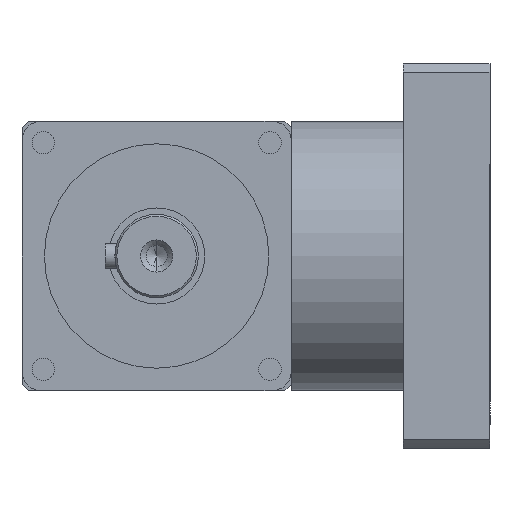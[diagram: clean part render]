
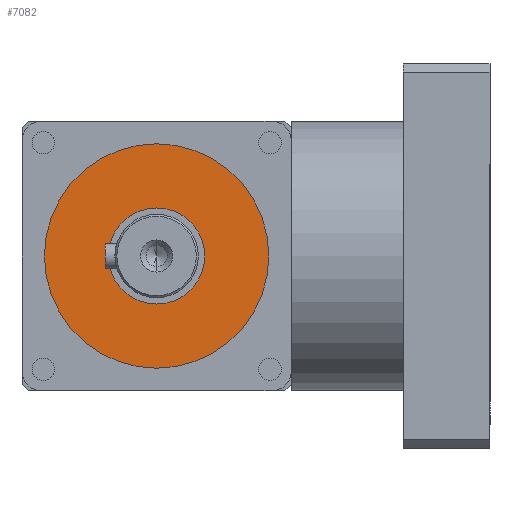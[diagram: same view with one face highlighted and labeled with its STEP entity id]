
A CAD part, front view. The second image highlights one B-rep face of the part: STEP entity #7082.
In plain terms, the highlighted planar face has unit normal (0, -1, 0).
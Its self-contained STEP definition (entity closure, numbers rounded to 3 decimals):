
#375 = VERTEX_POINT ( 'NONE', #463 ) ;
#376 = VERTEX_POINT ( 'NONE', #464 ) ;
#463 = CARTESIAN_POINT ( 'NONE',  ( 0., -66., 17.5 ) ) ;
#464 = CARTESIAN_POINT ( 'NONE',  ( 0., -66., -17.5 ) ) ;
#552 = CARTESIAN_POINT ( 'NONE',  ( 0., -66., 7.5 ) ) ;
#574 = CARTESIAN_POINT ( 'NONE',  ( 0., -66., -7.5 ) ) ;
#993 = ORIENTED_EDGE ( 'NONE', *, *, #3094, .T. ) ;
#995 = ORIENTED_EDGE ( 'NONE', *, *, #3079, .T. ) ;
#996 = ORIENTED_EDGE ( 'NONE', *, *, #3056, .T. ) ;
#998 = ORIENTED_EDGE ( 'NONE', *, *, #3095, .T. ) ;
#1335 = CARTESIAN_POINT ( 'NONE',  ( 0., -66., 0. ) ) ;
#1337 = DIRECTION ( 'NONE',  ( 0., 1., 0. ) ) ;
#1339 = DIRECTION ( 'NONE',  ( 0., 0., 1. ) ) ;
#1428 = CARTESIAN_POINT ( 'NONE',  ( 0., -66., 0. ) ) ;
#1429 = DIRECTION ( 'NONE',  ( 0., -1., 0. ) ) ;
#1430 = DIRECTION ( 'NONE',  ( 0., 0., -1. ) ) ;
#1471 = CARTESIAN_POINT ( 'NONE',  ( 0., -66., 0. ) ) ;
#1472 = DIRECTION ( 'NONE',  ( 0., -1., 0. ) ) ;
#1473 = DIRECTION ( 'NONE',  ( 0., 0., -1. ) ) ;
#1476 = CARTESIAN_POINT ( 'NONE',  ( 0., -66., 0. ) ) ;
#1477 = DIRECTION ( 'NONE',  ( 0., 1., 0. ) ) ;
#1478 = DIRECTION ( 'NONE',  ( 0., 0., 1. ) ) ;
#1853 = VERTEX_POINT ( 'NONE', #552 ) ;
#1923 = VERTEX_POINT ( 'NONE', #574 ) ;
#2296 = AXIS2_PLACEMENT_3D ( 'NONE', #3257, #3265, #3266 ) ;
#3056 = EDGE_CURVE ( 'NONE', #1853, #1923, #4890, .T. ) ;
#3079 = EDGE_CURVE ( 'NONE', #376, #375, #4923, .T. ) ;
#3094 = EDGE_CURVE ( 'NONE', #375, #376, #4837, .T. ) ;
#3095 = EDGE_CURVE ( 'NONE', #1923, #1853, #4871, .T. ) ;
#3257 = CARTESIAN_POINT ( 'NONE',  ( 0., -66., 0. ) ) ;
#3261 = FACE_OUTER_BOUND ( 'NONE', #7813, .T. ) ;
#3262 = FACE_BOUND ( 'NONE', #7855, .T. ) ;
#3263 = PLANE ( 'NONE',  #2296 ) ;
#3265 = DIRECTION ( 'NONE',  ( 0., -1., 0. ) ) ;
#3266 = DIRECTION ( 'NONE',  ( 0., 0., -1. ) ) ;
#4837 = CIRCLE ( 'NONE', #4872, 17.5 ) ;
#4866 = AXIS2_PLACEMENT_3D ( 'NONE', #1476, #1477, #1478 ) ;
#4871 = CIRCLE ( 'NONE', #4866, 7.5 ) ;
#4872 = AXIS2_PLACEMENT_3D ( 'NONE', #1471, #1472, #1473 ) ;
#4890 = CIRCLE ( 'NONE', #4952, 7.5 ) ;
#4923 = CIRCLE ( 'NONE', #4927, 17.5 ) ;
#4927 = AXIS2_PLACEMENT_3D ( 'NONE', #1428, #1429, #1430 ) ;
#4952 = AXIS2_PLACEMENT_3D ( 'NONE', #1335, #1337, #1339 ) ;
#7082 = ADVANCED_FACE ( 'NONE', ( #3261, #3262 ), #3263, .T. ) ;
#7813 = EDGE_LOOP ( 'NONE', ( #993, #995 ) ) ;
#7855 = EDGE_LOOP ( 'NONE', ( #996, #998 ) ) ;
